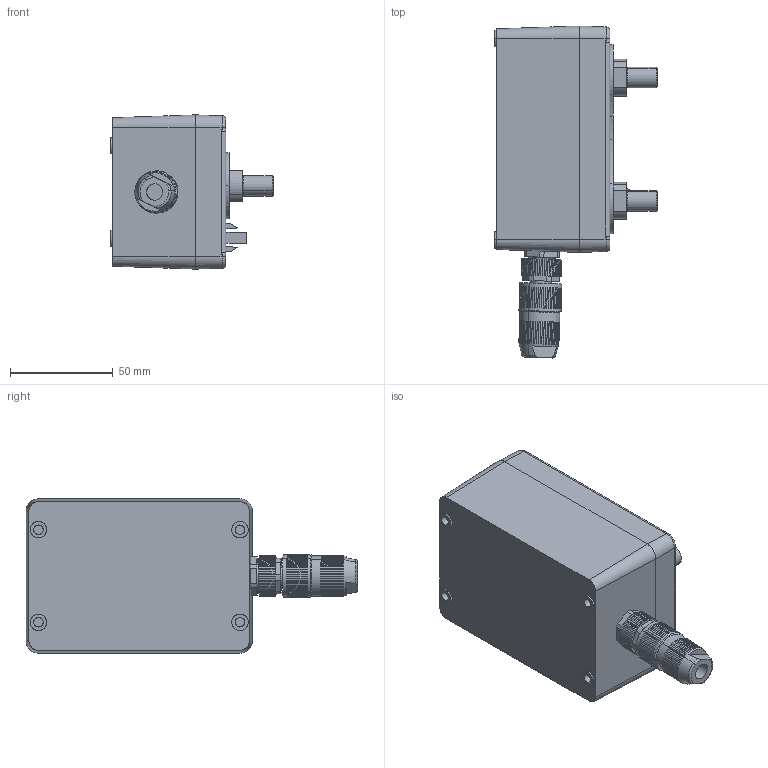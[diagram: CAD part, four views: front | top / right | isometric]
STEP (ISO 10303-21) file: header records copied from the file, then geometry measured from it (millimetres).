
FILE_DESCRIPTION(('CATIA V5 STEP Exchange'),'2;1');
FILE_NAME('D:\Dropbox\temp\Gehaeuse EM 2014\Energymeter 2014 R1.00.stp','2014-04-22T18:27:00+00:00',('none'),('none'),'CATIA Version 5 Release 21 SP 5 (IN-10)','CATIA V5 STEP AP203','none');
FILE_SCHEMA(('CONFIG_CONTROL_DESIGN'));
Products named in the file (1): Gehaeuse Energymeter 2014 R1.00
Assembly tree (9 placements, depth 2):
  Gehaeuse Energymeter 2014 R1.00
    #58
    #13203
    #32563  x2
    #33366
    #37508
    #55788
    #60625
    #61518
Bounding box: 79 x 161.38 x 75 mm (x, y, z)
Volume: 26418.9 mm3; surface area: 105436.2 mm2
Topology: 5 solids, 246 shells, 1115 faces, 5498 edges, 4692 vertices
Faces by surface type: plane 579, bspline 336, cylinder 150, revolution 32, torus 10, cone 8
Entity records: 65024 total; most frequent: CARTESIAN_POINT 31776, ORIENTED_EDGE 7628, EDGE_CURVE 5424, VERTEX_POINT 4655, DIRECTION 3425, B_SPLINE_CURVE_WITH_KNOTS 2579, VECTOR 1599, LINE 1599
